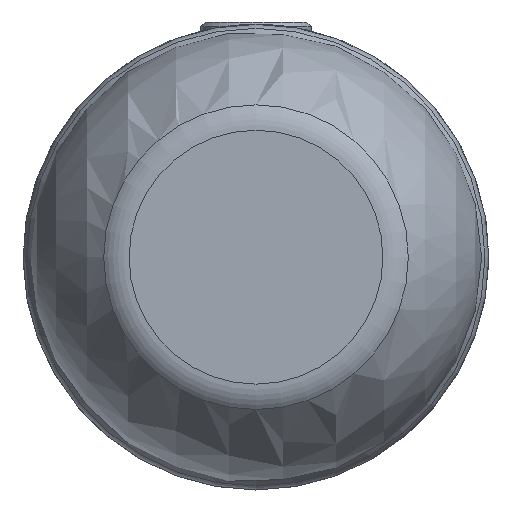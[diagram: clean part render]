
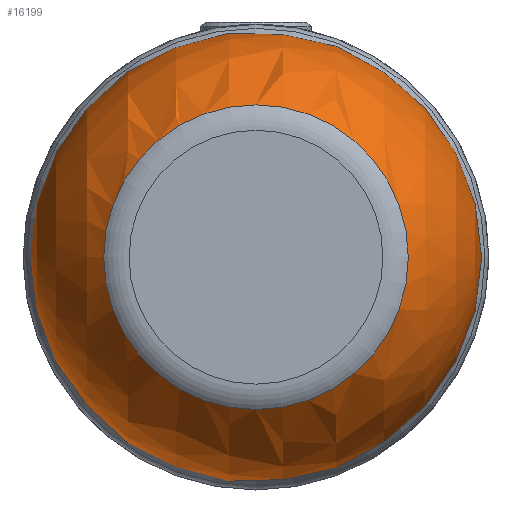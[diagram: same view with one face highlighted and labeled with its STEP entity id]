
A CAD part, left-side view. The second image highlights one B-rep face of the part: STEP entity #16199.
In plain terms, the highlighted spherical face has radius 12.186 mm.
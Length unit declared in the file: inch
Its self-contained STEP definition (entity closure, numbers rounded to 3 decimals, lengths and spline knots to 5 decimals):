
#1402=SPHERICAL_SURFACE('',#17283,0.47975);
#3913=FACE_BOUND('',#4960,.T.);
#4014=FACE_OUTER_BOUND('',#4959,.T.);
#4959=EDGE_LOOP('',(#10726,#10727,#10728,#10729,#10730,#10731,#10732));
#4960=EDGE_LOOP('',(#10733,#10734));
#6000=CIRCLE('',#17277,0.32389);
#6004=CIRCLE('',#17281,0.32389);
#6005=CIRCLE('',#17284,0.26399);
#6006=CIRCLE('',#17285,0.26399);
#6007=CIRCLE('',#17286,0.47975);
#6008=CIRCLE('',#17287,0.26399);
#6009=CIRCLE('',#17288,0.47975);
#6458=VERTEX_POINT('',#21800);
#6459=VERTEX_POINT('',#21801);
#6462=VERTEX_POINT('',#21811);
#6463=VERTEX_POINT('',#21812);
#6464=VERTEX_POINT('',#21814);
#6465=VERTEX_POINT('',#21816);
#6466=VERTEX_POINT('',#21819);
#8162=EDGE_CURVE('',#6458,#6459,#6000,.T.);
#8166=EDGE_CURVE('',#6459,#6458,#6004,.T.);
#8167=EDGE_CURVE('',#6462,#6463,#6005,.T.);
#8168=EDGE_CURVE('',#6464,#6462,#6006,.T.);
#8169=EDGE_CURVE('',#6465,#6464,#6007,.T.);
#8170=EDGE_CURVE('',#6463,#6464,#6008,.T.);
#8171=EDGE_CURVE('',#6463,#6466,#6009,.T.);
#10726=ORIENTED_EDGE('',*,*,#8167,.F.);
#10727=ORIENTED_EDGE('',*,*,#8168,.F.);
#10728=ORIENTED_EDGE('',*,*,#8169,.F.);
#10729=ORIENTED_EDGE('',*,*,#8169,.T.);
#10730=ORIENTED_EDGE('',*,*,#8170,.F.);
#10731=ORIENTED_EDGE('',*,*,#8171,.T.);
#10732=ORIENTED_EDGE('',*,*,#8171,.F.);
#10733=ORIENTED_EDGE('',*,*,#8162,.F.);
#10734=ORIENTED_EDGE('',*,*,#8166,.F.);
#16199=ADVANCED_FACE('',(#4014,#3913),#1402,.T.);
#17277=AXIS2_PLACEMENT_3D('',#21802,#18412,#18413);
#17281=AXIS2_PLACEMENT_3D('',#21808,#18420,#18421);
#17283=AXIS2_PLACEMENT_3D('',#21810,#18424,#18425);
#17284=AXIS2_PLACEMENT_3D('',#21813,#18426,#18427);
#17285=AXIS2_PLACEMENT_3D('',#21815,#18428,#18429);
#17286=AXIS2_PLACEMENT_3D('',#21817,#18430,#18431);
#17287=AXIS2_PLACEMENT_3D('',#21818,#18432,#18433);
#17288=AXIS2_PLACEMENT_3D('',#21820,#18434,#18435);
#18412=DIRECTION('center_axis',(1.,0.,0.));
#18413=DIRECTION('ref_axis',(0.,0.,-1.));
#18420=DIRECTION('center_axis',(1.,0.,0.));
#18421=DIRECTION('ref_axis',(0.,0.,-1.));
#18424=DIRECTION('center_axis',(0.,0.,1.));
#18425=DIRECTION('ref_axis',(1.,0.,0.));
#18426=DIRECTION('center_axis',(-1.,0.,0.));
#18427=DIRECTION('ref_axis',(0.,-1.,0.));
#18428=DIRECTION('center_axis',(-1.,0.,0.));
#18429=DIRECTION('ref_axis',(0.,-1.,0.));
#18430=DIRECTION('center_axis',(0.,-1.,0.));
#18431=DIRECTION('ref_axis',(-1.,0.,0.));
#18432=DIRECTION('center_axis',(-1.,0.,0.));
#18433=DIRECTION('ref_axis',(0.,-1.,0.));
#18434=DIRECTION('center_axis',(0.,-1.,0.));
#18435=DIRECTION('ref_axis',(-1.,0.,0.));
#21800=CARTESIAN_POINT('',(-0.06494,1.07816,0.32389));
#21801=CARTESIAN_POINT('',(-0.06494,1.07816,-0.32389));
#21802=CARTESIAN_POINT('Origin',(-0.06494,1.07816,0.));
#21808=CARTESIAN_POINT('Origin',(-0.06494,1.07816,0.));
#21810=CARTESIAN_POINT('Origin',(-0.41886,1.07816,0.));
#21811=CARTESIAN_POINT('',(-0.81944,1.34215,0.));
#21812=CARTESIAN_POINT('',(-0.81944,1.07816,-0.26399));
#21813=CARTESIAN_POINT('Origin',(-0.81944,1.07816,0.));
#21814=CARTESIAN_POINT('',(-0.81944,1.07816,0.26399));
#21815=CARTESIAN_POINT('Origin',(-0.81944,1.07816,0.));
#21816=CARTESIAN_POINT('',(-0.41886,1.07816,0.47975));
#21817=CARTESIAN_POINT('Origin',(-0.41886,1.07816,0.));
#21818=CARTESIAN_POINT('Origin',(-0.81944,1.07816,0.));
#21819=CARTESIAN_POINT('',(-0.41886,1.07816,-0.47975));
#21820=CARTESIAN_POINT('Origin',(-0.41886,1.07816,0.));
